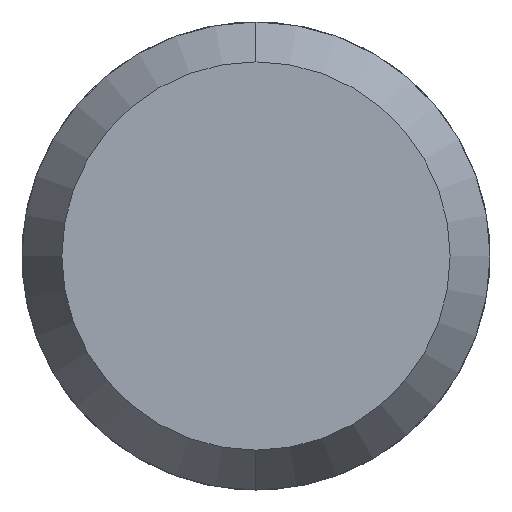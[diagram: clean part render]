
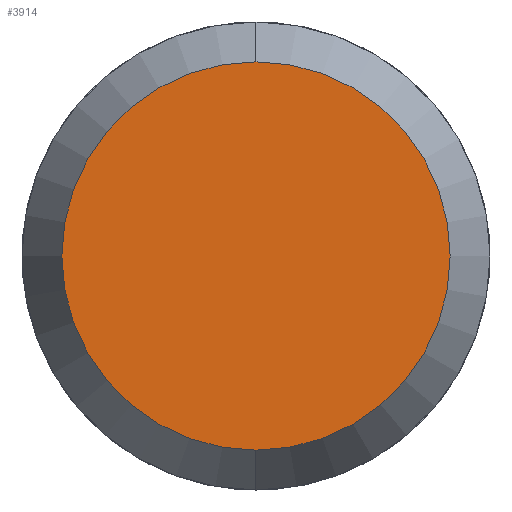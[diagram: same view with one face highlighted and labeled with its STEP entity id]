
A CAD part, left-side view. The second image highlights one B-rep face of the part: STEP entity #3914.
In plain terms, the highlighted planar face has unit normal (-1, 0, 0).
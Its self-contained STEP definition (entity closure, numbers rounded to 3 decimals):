
#72 = AXIS2_PLACEMENT_3D ( 'NONE', #4005, #8657, #7541 ) ;
#1482 = EDGE_LOOP ( 'NONE', ( #9292, #7686 ) ) ;
#1805 = VERTEX_POINT ( 'NONE', #3058 ) ;
#2415 = PLANE ( 'NONE',  #7876 ) ;
#3058 = CARTESIAN_POINT ( 'NONE',  ( -7.3, 0., 1.95 ) ) ;
#3533 = DIRECTION ( 'NONE',  ( 0., 0., 1. ) ) ;
#3621 = EDGE_CURVE ( 'NONE', #1805, #7299, #4307, .T. ) ;
#3914 = ADVANCED_FACE ( 'NONE', ( #10918 ), #2415, .T. ) ;
#4005 = CARTESIAN_POINT ( 'NONE',  ( -7.3, 0., 0. ) ) ;
#4307 = CIRCLE ( 'NONE', #6887, 1.95 ) ;
#5214 = EDGE_CURVE ( 'NONE', #7299, #1805, #5451, .T. ) ;
#5451 = CIRCLE ( 'NONE', #72, 1.95 ) ;
#5478 = DIRECTION ( 'NONE',  ( 0., 0., -1. ) ) ;
#6195 = CARTESIAN_POINT ( 'NONE',  ( -7.3, 1.95, 0. ) ) ;
#6887 = AXIS2_PLACEMENT_3D ( 'NONE', #12163, #9255, #5478 ) ;
#7299 = VERTEX_POINT ( 'NONE', #8192 ) ;
#7378 = DIRECTION ( 'NONE',  ( -1., 0., 0. ) ) ;
#7541 = DIRECTION ( 'NONE',  ( 0., 0., -1. ) ) ;
#7686 = ORIENTED_EDGE ( 'NONE', *, *, #3621, .F. ) ;
#7876 = AXIS2_PLACEMENT_3D ( 'NONE', #6195, #7378, #3533 ) ;
#8192 = CARTESIAN_POINT ( 'NONE',  ( -7.3, 0., -1.95 ) ) ;
#8657 = DIRECTION ( 'NONE',  ( 1., 0., 0. ) ) ;
#9255 = DIRECTION ( 'NONE',  ( 1., 0., 0. ) ) ;
#9292 = ORIENTED_EDGE ( 'NONE', *, *, #5214, .F. ) ;
#10918 = FACE_OUTER_BOUND ( 'NONE', #1482, .T. ) ;
#12163 = CARTESIAN_POINT ( 'NONE',  ( -7.3, 0., 0. ) ) ;
